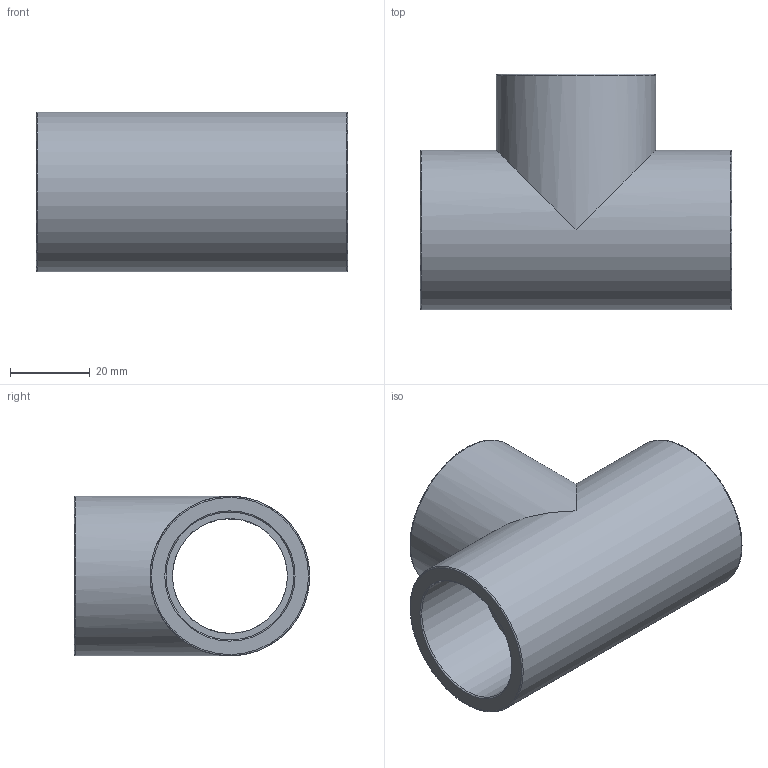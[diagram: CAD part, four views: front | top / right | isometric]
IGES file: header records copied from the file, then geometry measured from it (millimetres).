
Global section: file name: 050400032.ipt; native system: Autodesk Inventor 2015; preprocessor: unknown; author: KIM; date: 20171207.164431; units: millimetre
Bounding box: 78 x 59 x 40 mm (x, y, z)
Volume: 47337.1 mm3; surface area: 22815.6 mm2
Topology: 1 solids, 1 shells, 19 faces, 60 edges, 46 vertices
Faces by surface type: revolution 11, plane 6, cylinder 2
Full cylindrical faces by diameter (mm): 40 x2
